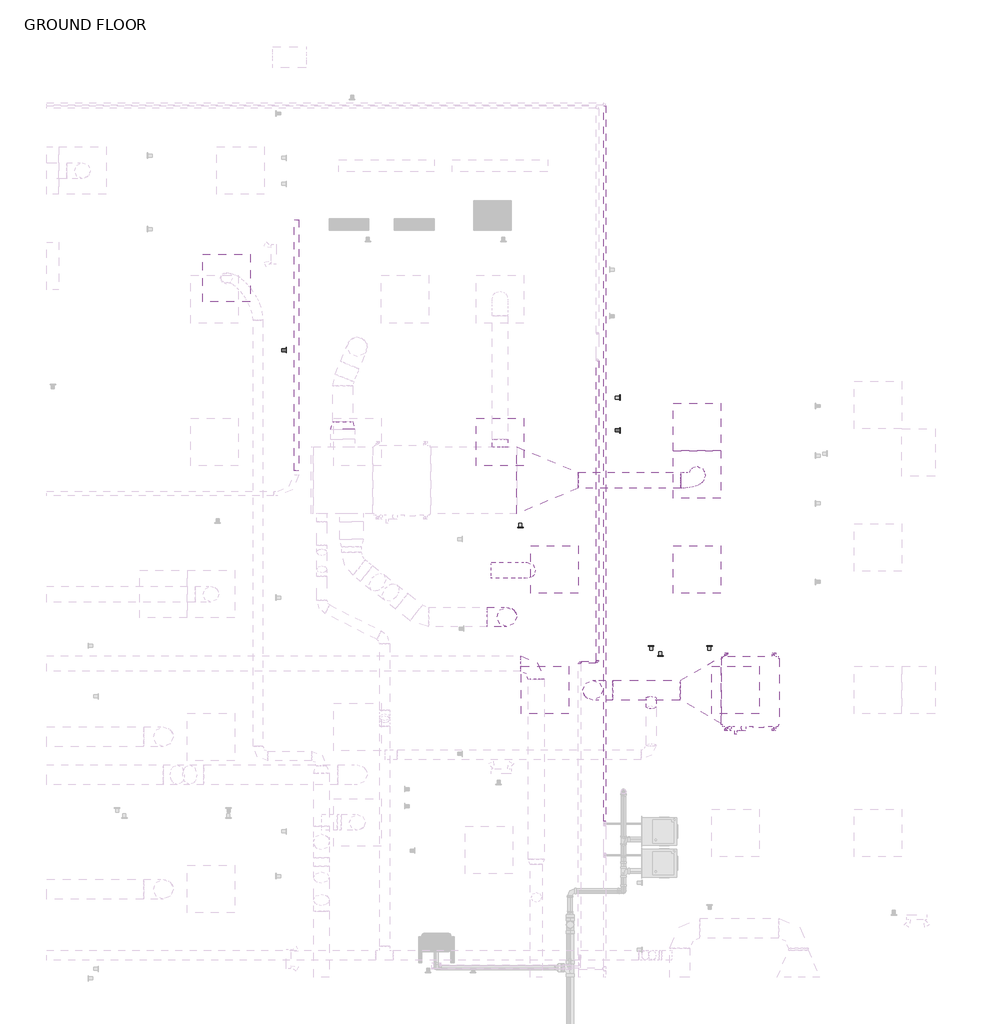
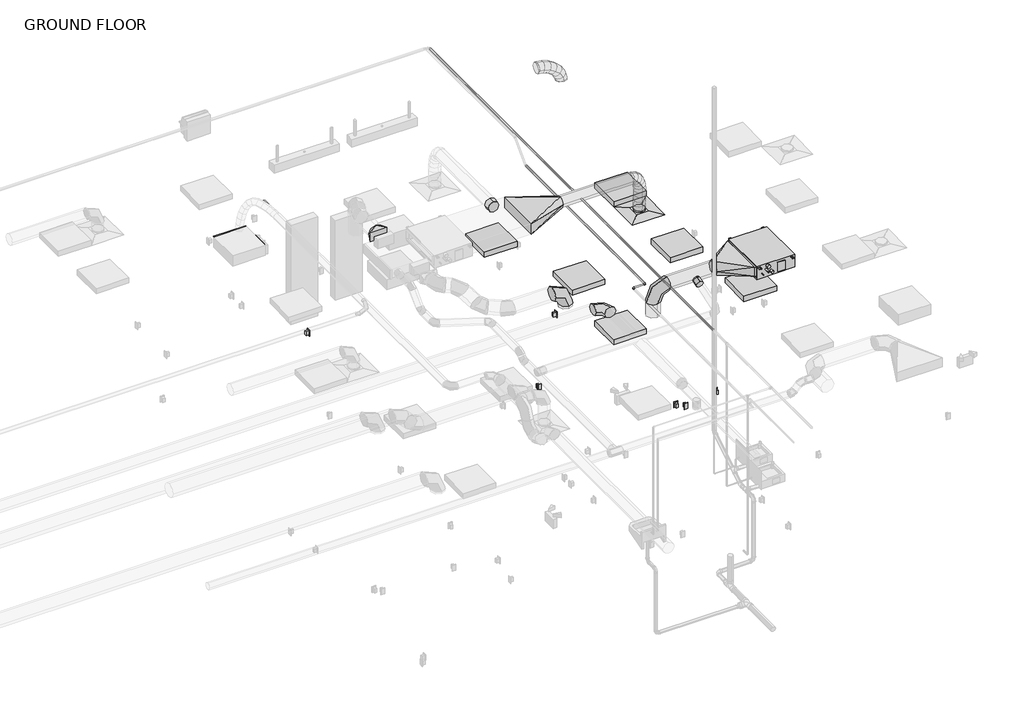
# One storey, part 20 of 22: 8 duct fittings, 6 duct segments, 6 light fixtures, 5 proxies, 3 pipe segments, 2 air terminals, 2 pipe fittings, 2 switching devices, 2 other elements.
"""IFC4 building model written with IfcOpenShell, lengths in millimetres."""

from ifc_helpers import new_model, si_unit, point, frame, frame_2d, origin, place, context, project, spatial, circle_curve, ellipse_curve, trimmed, segment, composite_curve, outline, extrude, transform, mapped, element, save
from ifc_brep_helpers import plane_surface, cylinder_surface, advanced_brep
from components import air_terminal_52af7c74, air_terminal_e9020785, mechanical_equipment_7e022f85, duplex_receptacle_countertop_10251bba, rectangular_to_round_transition_angle_45_degree_0bd342e9, rectangular_to_round_transition_angle_45_degree_09297cf0, rectangular_to_round_transition_angle_60_degree_68074483, round_elbow_1_d_a253342a, round_elbow_1_d_6fec3262, round_takeoff_standard_c8132586, round_takeoff_standard_1127d77f, telephone_outlet_data_plain_18c24199, troffer_corner_insert_2x2_3lamp_e67c7f8f, elbow_generic_standard_c06ac706

model = new_model("IFC4")

# Units and contexts
model_context = context("Model", 3, world=origin())
ifc_project = project(units=[si_unit("LENGTHUNIT", "METRE", prefix="MILLI")], contexts=[model_context])

# Site, building, storey
site = spatial("IfcSite", under=ifc_project)
building = spatial("IfcBuilding", under=site)
storey = spatial("IfcBuildingStorey", under=building, Name="GROUND FLOOR", Elevation=30480.0)

# Air terminals
placement = place(None, origin())
air_terminal_shape = air_terminal_52af7c74(model_context)
element("IfcAirTerminal", 1, ObjectType="Supply Diffuser - Rectangular Face Round Neck - Hosted : 24\"x24\" Face 6\" Neck - Hosted", at=placement, inside=storey, context=model_context, shape_type="MappedRepresentation", body=[
    mapped(air_terminal_shape, transform((8532.1795393, 5435.0070005, 33223.2), x_axis=(0.0, -1.0, 0.0), y_axis=(-1.0, 0.0, 0.0), z_axis=(0.0, 0.0, -1.0))),
])
air_terminal_2_shape = air_terminal_e9020785(model_context)
element("IfcAirTerminal", 2, ObjectType="Supply Diffuser - Rectangular Face Round Neck - Hosted : 24\"x24\" Face 8\" Neck - Hosted", at=placement, inside=storey, context=model_context, shape_type="MappedRepresentation", body=[
    mapped(air_terminal_2_shape, transform((14567.8545393, 2918.8195005, 33223.2), x_axis=(0.0, -1.0, 0.0), y_axis=(-1.0, 0.0, 0.0), z_axis=(0.0, 0.0, -1.0))),
])

# Proxies
mechanical_equipment_shape = mechanical_equipment_7e022f85(model_context)
element("IfcBuildingElementProxy", 3, Name="PEFY-P-NMAU-E_Medium_Static_Ducted : PEFY-P18NMAU-E", ObjectType="PEFY-P-NMAU-E_Medium_Static_Ducted : PEFY-P18NMAU-E", at=placement, inside=storey, context=model_context, shape_type="MappedRepresentation", body=[
    mapped(mechanical_equipment_shape, transform((15192.6616523, 124.3322576, 33686.75), x_axis=(0.0, -1.0, 0.0), y_axis=(1.0, 0.0, 0.0), z_axis=(0.0, 0.0, 1.0))),
])
duplex_receptacle_countertop_shape = duplex_receptacle_countertop_10251bba(model_context)
element("IfcBuildingElementProxy", 4, Name="Duplex Receptacle : Standard", ObjectType="Duplex Receptacle : Standard", at=placement, inside=storey, context=model_context, shape_type="MappedRepresentation", body=[
    mapped(duplex_receptacle_countertop_shape, transform((12301.5341357, 2239.3695005, 30937.2), x_axis=(1.0, 0.0, 0.0), y_axis=(0.0, 0.0, 1.0), z_axis=(0.0, -1.0, 0.0))),
])
element("IfcBuildingElementProxy", 5, Name="Duplex Receptacle : Standard", ObjectType="Duplex Receptacle : Standard", at=placement, inside=storey, context=model_context, shape_type="MappedRepresentation", body=[
    mapped(duplex_receptacle_countertop_shape, transform((14723.7149264, 715.3695005, 30937.2), x_axis=(-1.0, 0.0, 0.0), y_axis=(0.0, 0.0, 1.0), z_axis=(0.0, 1.0, 0.0))),
])
element("IfcBuildingElementProxy", 6, Name="Duplex Receptacle : Standard", ObjectType="Duplex Receptacle : Standard", at=placement, inside=storey, context=model_context, shape_type="MappedRepresentation", body=[
    mapped(duplex_receptacle_countertop_shape, transform((13574.0795393, 3902.2763697, 30937.2), x_axis=(0.0, 1.0, 0.0), y_axis=(0.0, 0.0, 1.0), z_axis=(1.0, 0.0, 0.0))),
])
element("IfcBuildingElementProxy", 7, Name="Duplex Receptacle : Standard", ObjectType="Duplex Receptacle : Standard", at=placement, inside=storey, context=model_context, shape_type="MappedRepresentation", body=[
    mapped(duplex_receptacle_countertop_shape, transform((14097.4622755, 591.5445005, 30937.2), x_axis=(1.0, 0.0, 0.0), y_axis=(0.0, 0.0, 1.0), z_axis=(0.0, -1.0, 0.0))),
])

# Cable carrier segment
element("IfcCableCarrierSegment", 8, ObjectType="Rigid Nonmetallic Conduit (RNC Sch 40)", at=placement, inside=storey, context=model_context, shape_type="SweptSolid", body=[
    extrude(outline(composite_curve([segment(trimmed(circle_curve(frame_2d((33223.2, 9431.6029466)), 30.1625), [point((33223.2, 9401.4404466))], [point((33193.0375, 9431.6029466))], False, "CARTESIAN"), True, "CONTINUOUS"), segment(trimmed(circle_curve(frame_2d((33223.2, 9431.6029466)), 30.1625), [point((33193.0375, 9431.6029466))], [point((33223.2, 9461.7654466))], False, "CARTESIAN"), True, "CONTINUOUS"), segment(trimmed(circle_curve(frame_2d((33223.2, 9431.6029466)), 30.1625), [point((33223.2, 9461.7654466))], [point((33253.3625, 9431.6029466))], False, "CARTESIAN"), True, "CONTINUOUS"), segment(trimmed(circle_curve(frame_2d((33223.2, 9431.6029466)), 30.1625), [point((33253.3625, 9431.6029466))], [point((33223.2, 9401.4404466))], False, "CARTESIAN"), True, "CONTINUOUS")], self_intersect=False)), frame((0.0, 2966.8111662, 0.0), z_axis=(0.0, 1.0, 0.0), x_axis=(0.0, 0.0, 1.0)), (0.0, 0.0, 1.0), 3213.1),
])

# Duct fittings
rectangular_to_round_transition_angle_45_degree_shape = rectangular_to_round_transition_angle_45_degree_0bd342e9(model_context)
element("IfcDuctFitting", 9, ObjectType="Rectangular to Round Transition - Angle : 45 Degree", at=placement, inside=storey, context=model_context, shape_type="MappedRepresentation", body=[
    mapped(rectangular_to_round_transition_angle_45_degree_shape, transform((10025.6343566, 3498.327897, 33992.34375), x_axis=(0.0, 1.0, 0.0), y_axis=(-1.0, 0.0, 0.0), z_axis=(0.0, 0.0, 1.0))),
])
rectangular_to_round_transition_angle_45_degree_2_shape = rectangular_to_round_transition_angle_45_degree_09297cf0(model_context)
element("IfcDuctFitting", 10, ObjectType="Rectangular to Round Transition - Angle : 45 Degree", at=placement, inside=storey, context=model_context, shape_type="MappedRepresentation", body=[
    mapped(rectangular_to_round_transition_angle_45_degree_2_shape, transform((12257.9936831, 2841.896647, 33978.85), x_axis=(1.0, 0.0, 0.0), y_axis=(0.0, 1.0, 0.0), z_axis=(0.0, 0.0, 1.0))),
])
rectangular_to_round_transition_angle_60_degree_shape = rectangular_to_round_transition_angle_60_degree_68074483(model_context)
element("IfcDuctFitting", 11, ObjectType="Rectangular to Round Transition - Angle : 60 Degree", at=placement, inside=storey, context=model_context, shape_type="MappedRepresentation", body=[
    mapped(rectangular_to_round_transition_angle_60_degree_shape, transform((14875.1616523, 151.8070005, 33846.29375), x_axis=(-1.0, 0.0, 0.0), y_axis=(0.0, -1.0, 0.0), z_axis=(0.0, 0.0, 1.0))),
])
round_elbow_1_d_shape = round_elbow_1_d_a253342a(model_context)
element("IfcDuctFitting", 12, ObjectType="Round Elbow : 1 D", at=placement, inside=storey, context=model_context, shape_type="MappedRepresentation", body=[
    mapped(round_elbow_1_d_shape, transform((12507.2795393, 493.3414929, 33528.0), x_axis=(0.0, 1.0, 0.0), y_axis=(-1.0, 0.0, 0.0), z_axis=(0.0, 0.0, 1.0))),
])
round_elbow_1_d_2_shape = round_elbow_1_d_6fec3262(model_context)
element("IfcDuctFitting", 13, ObjectType="Round Elbow : 1 D", at=placement, inside=storey, context=model_context, shape_type="MappedRepresentation", body=[
    mapped(round_elbow_1_d_2_shape, transform((13229.5920393, 151.8070005, 33846.29375), x_axis=(0.0, 0.0, 1.0), y_axis=(1.0, 0.0, 0.0), z_axis=(0.0, 1.0, 0.0))),
])
element("IfcDuctFitting", 14, ObjectType="Round Elbow : 1 D", at=placement, inside=storey, context=model_context, shape_type="MappedRepresentation", body=[
    mapped(round_elbow_1_d_2_shape, transform((12129.4545393, 1090.0195005, 33629.6), x_axis=(0.0, 0.0, 1.0), y_axis=(-1.0, 0.0, 0.0), z_axis=(0.0, -1.0, 0.0))),
])
round_takeoff_standard_shape = round_takeoff_standard_c8132586(model_context)
element("IfcDuctFitting", 15, ObjectType="Round Takeoff : Standard", at=placement, inside=storey, context=model_context, shape_type="MappedRepresentation", body=[
    mapped(round_takeoff_standard_shape, transform((13976.8577502, 28.8487351, 33814.5090845), x_axis=(0.0, -0.9574860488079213, -0.28847957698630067), y_axis=(-1.0, 0.0, 0.0), z_axis=(0.0, 0.28847957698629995, -0.9574860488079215))),
])
round_takeoff_standard_2_shape = round_takeoff_standard_1127d77f(model_context)
element("IfcDuctFitting", 16, ObjectType="Round Takeoff : Standard", at=placement, inside=storey, context=model_context, shape_type="MappedRepresentation", body=[
    mapped(round_takeoff_standard_2_shape, transform((12040.5545393, 3269.727897, 33978.85), x_axis=(0.0, 1.0, 0.0), y_axis=(1.0, 0.0, 0.0), z_axis=(0.0, 0.0, -1.0))),
])

# Duct segments
element("IfcDuctSegment", 17, ObjectType="Flex - Round", at=placement, inside=storey, context=model_context, shape_type="AdvancedBrep", body=[
    advanced_brep(
    [(14669.4545393, 2918.8195005, 33277.175), (14567.8545393, 2817.2195005, 33277.175), (14466.2545393, 2918.8195005, 33277.175), (14567.8545393, 3020.4195005, 33277.175), (14669.4545393, 2918.8195005, 33279.8547075), (14567.8545393, 2817.2195005, 33278.7618832), (14466.2545393, 2918.8195005, 33280.7980181), (14567.8545393, 3020.4195005, 33281.8908423), (14670.2466059, 2916.1922176, 33365.1427836), (14568.616162, 2814.6931997, 33360.7718304), (14467.0530424, 2916.1708676, 33366.7791677), (14568.6834863, 3017.6698854, 33371.1501209), (14670.9315956, 2909.0188694, 33465.4647279), (14569.2677947, 2807.8691727, 33456.2083879), (14467.7182424, 2909.2047612, 33464.2027585), (14569.3820433, 3010.3544579, 33473.4590985), (14668.8447102, 2898.3986023, 33572.8340621), (14567.3020822, 2797.8655607, 33557.3434305), (14465.7826584, 2899.3544747, 33563.787703), (14567.3252863, 2999.8875163, 33579.2783346), (14661.1005042, 2885.461278, 33682.2201979), (14560.1562908, 2785.9279366, 33658.2770193), (14458.9994567, 2888.0225859, 33659.5997492), (14559.94367, 2987.5559274, 33683.5429279), (14644.2995966, 2871.2387095, 33789.4249914), (14545.2626132, 2773.3199064, 33753.3119824), (14445.6357391, 2876.7097216, 33744.8722008), (14544.6727225, 2974.6285247, 33780.9852098), (14613.5644873, 2856.5939705, 33891.2786024), (14520.0395911, 2761.30158, 33836.8989925), (14425.4367268, 2867.0852475, 33811.8100579), (14518.961623, 2962.377638, 33866.1896679), (14560.3234804, 2842.4095473, 33984.2272659), (14481.828247, 2751.1213466, 33903.6087256), (14401.8418364, 2860.7991171, 33853.0022452), (14480.3370698, 2952.0873178, 33933.6207855), (14477.0345462, 2831.492141, 34052.57981), (14427.8368128, 2744.0442188, 33947.9177556), (14377.2608184, 2857.5770689, 33873.1750944), (14426.4585518, 2945.024991, 33977.8371488), (14393.1398295, 2827.0688797, 34079.362175), (14377.3901647, 2741.384472, 33964.0222327), (14361.0887655, 2856.7244143, 33878.337825), (14376.8384304, 2942.4088219, 33993.6777673), (14355.1295393, 2827.0688797, 34079.362175), (14355.1295393, 2942.4088219, 33993.6777673), (14355.1295393, 2856.7244143, 33878.337825), (14355.1295393, 2741.384472, 33964.0222327)],
    [
        (0, 1, circle_curve(frame((14567.8545393, 2918.8195005, 33277.175), z_axis=(0.0, 0.0, -1.0), x_axis=(1.0, 0.0, 0.0)), 101.6)),
        (1, 2, circle_curve(frame((14567.8545393, 2918.8195005, 33277.175), z_axis=(0.0, 0.0, -1.0), x_axis=(1.0, 0.0, 0.0)), 101.6)),
        (2, 3, circle_curve(frame((14567.8545393, 2918.8195005, 33277.175), z_axis=(0.0, 0.0, -1.0), x_axis=(1.0, 0.0, 0.0)), 101.6)),
        (3, 0, circle_curve(frame((14567.8545393, 2918.8195005, 33277.175), z_axis=(0.0, 0.0, -1.0), x_axis=(1.0, 0.0, 0.0)), 101.6)),
        (0, 4),
        (4, 5, ellipse_curve(frame((14567.8545393, 2918.8195005, 33280.3263628), z_axis=(-0.004641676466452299, 0.015396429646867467, -0.9998706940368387), x_axis=(0.2886080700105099, -0.957312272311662, -0.016080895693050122)), 101.6131392, 101.6)),
        (5, 1),
        (5, 6, ellipse_curve(frame((14567.8545393, 2918.8195005, 33280.3263628), z_axis=(-0.004641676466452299, 0.015396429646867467, -0.9998706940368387), x_axis=(0.2886080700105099, -0.957312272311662, -0.016080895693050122)), 101.6131392, 101.6)),
        (6, 2),
        (6, 7, ellipse_curve(frame((14567.8545393, 2918.8195005, 33280.3263628), z_axis=(-0.004641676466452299, 0.015396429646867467, -0.9998706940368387), x_axis=(0.2886080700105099, -0.957312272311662, -0.016080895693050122)), 101.6131392, 101.6)),
        (7, 3),
        (7, 4, ellipse_curve(frame((14567.8545393, 2918.8195005, 33280.3263628), z_axis=(-0.004641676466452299, 0.015396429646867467, -0.9998706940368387), x_axis=(0.2886080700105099, -0.957312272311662, -0.016080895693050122)), 101.6131392, 101.6)),
        (4, 8),
        (8, 9, ellipse_curve(frame((14568.6498241, 2916.1815426, 33365.9609757), z_axis=(-0.008047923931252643, 0.051064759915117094, -0.9986629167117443), x_axis=(-0.06079481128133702, -0.996872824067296, -0.050483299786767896)), 101.6210003, 101.6)),
        (9, 5),
        (9, 10, ellipse_curve(frame((14568.6498241, 2916.1815426, 33365.9609757), z_axis=(-0.008047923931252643, 0.051064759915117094, -0.9986629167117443), x_axis=(-0.06079481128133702, -0.996872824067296, -0.050483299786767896)), 101.6210003, 101.6)),
        (10, 6),
        (10, 11, ellipse_curve(frame((14568.6498241, 2916.1815426, 33365.9609757), z_axis=(-0.008047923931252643, 0.051064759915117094, -0.9986629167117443), x_axis=(-0.06079481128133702, -0.996872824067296, -0.050483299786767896)), 101.6210003, 101.6)),
        (11, 7),
        (11, 8, ellipse_curve(frame((14568.6498241, 2916.1815426, 33365.9609757), z_axis=(-0.008047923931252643, 0.051064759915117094, -0.9986629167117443), x_axis=(-0.06079481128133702, -0.996872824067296, -0.050483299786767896)), 101.6210003, 101.6)),
        (8, 12),
        (12, 13, ellipse_curve(frame((14569.324919, 2909.1118153, 33464.8337432), z_axis=(0.006265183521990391, 0.08488220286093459, -0.9963712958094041), x_axis=(-0.6929382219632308, -0.718013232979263, -0.06552570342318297)), 101.6180899, 101.6)),
        (13, 9),
        (13, 14, ellipse_curve(frame((14569.324919, 2909.1118153, 33464.8337432), z_axis=(0.006265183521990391, 0.08488220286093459, -0.9963712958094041), x_axis=(-0.6929382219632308, -0.718013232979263, -0.06552570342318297)), 101.6180899, 101.6)),
        (14, 10),
        (14, 15, ellipse_curve(frame((14569.324919, 2909.1118153, 33464.8337432), z_axis=(0.006265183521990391, 0.08488220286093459, -0.9963712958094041), x_axis=(-0.6929382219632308, -0.718013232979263, -0.06552570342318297)), 101.6180899, 101.6)),
        (15, 11),
        (15, 12, ellipse_curve(frame((14569.324919, 2909.1118153, 33464.8337432), z_axis=(0.006265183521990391, 0.08488220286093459, -0.9963712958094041), x_axis=(-0.6929382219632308, -0.718013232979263, -0.06552570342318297)), 101.6180899, 101.6)),
        (12, 16),
        (16, 17, ellipse_curve(frame((14567.3136843, 2898.8765385, 33568.3108826), z_axis=(0.04475266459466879, 0.10782920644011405, -0.9931616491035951), x_axis=(-0.935152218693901, -0.34518349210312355, -0.07961585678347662)), 101.637491, 101.6)),
        (17, 13),
        (17, 18, ellipse_curve(frame((14567.3136843, 2898.8765385, 33568.3108826), z_axis=(0.04475266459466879, 0.10782920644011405, -0.9931616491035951), x_axis=(-0.935152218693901, -0.34518349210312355, -0.07961585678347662)), 101.637491, 101.6)),
        (18, 14),
        (18, 19, ellipse_curve(frame((14567.3136843, 2898.8765385, 33568.3108826), z_axis=(0.04475266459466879, 0.10782920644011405, -0.9931616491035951), x_axis=(-0.935152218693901, -0.34518349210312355, -0.07961585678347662)), 101.637491, 101.6)),
        (19, 15),
        (19, 16, ellipse_curve(frame((14567.3136843, 2898.8765385, 33568.3108826), z_axis=(0.04475266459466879, 0.10782920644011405, -0.9931616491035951), x_axis=(-0.935152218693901, -0.34518349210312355, -0.07961585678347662)), 101.637491, 101.6)),
        (16, 20),
        (20, 21, ellipse_curve(frame((14560.0499804, 2886.741932, 33670.9099736), z_axis=(0.11192577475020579, 0.12367206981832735, -0.9859907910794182), x_axis=(-0.9800340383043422, -0.15035030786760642, -0.13010791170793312)), 101.6920553, 101.6)),
        (21, 17),
        (21, 22, ellipse_curve(frame((14560.0499804, 2886.741932, 33670.9099736), z_axis=(0.11192577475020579, 0.12367206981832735, -0.9859907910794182), x_axis=(-0.9800340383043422, -0.15035030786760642, -0.13010791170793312)), 101.6920553, 101.6)),
        (22, 18),
        (22, 23, ellipse_curve(frame((14560.0499804, 2886.741932, 33670.9099736), z_axis=(0.11192577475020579, 0.12367206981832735, -0.9859907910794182), x_axis=(-0.9800340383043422, -0.15035030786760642, -0.13010791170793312)), 101.6920553, 101.6)),
        (23, 19),
        (23, 20, ellipse_curve(frame((14560.0499804, 2886.741932, 33670.9099736), z_axis=(0.11192577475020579, 0.12367206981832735, -0.9859907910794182), x_axis=(-0.9800340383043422, -0.15035030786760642, -0.13010791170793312)), 101.6920553, 101.6)),
        (20, 24),
        (24, 25, ellipse_curve(frame((14544.9676679, 2873.9742155, 33767.1485961), z_axis=(0.22036722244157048, 0.13347181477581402, -0.9662419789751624), x_axis=(-0.9724624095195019, -0.046980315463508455, -0.22827551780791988)), 101.8372313, 101.6)),
        (25, 21),
        (25, 26, ellipse_curve(frame((14544.9676679, 2873.9742155, 33767.1485961), z_axis=(0.22036722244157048, 0.13347181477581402, -0.9662419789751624), x_axis=(-0.9724624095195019, -0.046980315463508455, -0.22827551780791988)), 101.8372313, 101.6)),
        (26, 22),
        (26, 27, ellipse_curve(frame((14544.9676679, 2873.9742155, 33767.1485961), z_axis=(0.22036722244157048, 0.13347181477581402, -0.9662419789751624), x_axis=(-0.9724624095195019, -0.046980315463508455, -0.22827551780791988)), 101.8372313, 101.6)),
        (27, 23),
        (27, 24, ellipse_curve(frame((14544.9676679, 2873.9742155, 33767.1485961), z_axis=(0.22036722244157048, 0.13347181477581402, -0.9662419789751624), x_axis=(-0.9724624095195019, -0.046980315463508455, -0.22827551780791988)), 101.8372313, 101.6)),
        (24, 28),
        (28, 29, ellipse_curve(frame((14519.500607, 2861.839609, 33851.5443302), z_axis=(0.39194385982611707, 0.13467205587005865, -0.9100788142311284), x_axis=(-0.9194238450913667, 0.022666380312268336, -0.3926143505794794)), 102.2470263, 101.6)),
        (29, 25),
        (29, 30, ellipse_curve(frame((14519.500607, 2861.839609, 33851.5443302), z_axis=(0.39194385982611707, 0.13467205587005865, -0.9100788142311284), x_axis=(-0.9194238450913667, 0.022666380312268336, -0.3926143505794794)), 102.2470263, 101.6)),
        (30, 26),
        (30, 31, ellipse_curve(frame((14519.500607, 2861.839609, 33851.5443302), z_axis=(0.39194385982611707, 0.13467205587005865, -0.9100788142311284), x_axis=(-0.9194238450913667, 0.022666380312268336, -0.3926143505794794)), 102.2470263, 101.6)),
        (31, 27),
        (31, 28, ellipse_curve(frame((14519.500607, 2861.839609, 33851.5443302), z_axis=(0.39194385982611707, 0.13467205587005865, -0.9100788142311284), x_axis=(-0.9194238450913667, 0.022666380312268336, -0.3926143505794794)), 102.2470263, 101.6)),
        (28, 32),
        (32, 33, ellipse_curve(frame((14481.0826584, 2851.6043322, 33918.6147556), z_axis=(0.6413951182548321, 0.11797107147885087, -0.7580864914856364), x_axis=(-0.7671332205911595, 0.08456983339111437, -0.635888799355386)), 103.289209, 101.6)),
        (33, 29),
        (33, 34, ellipse_curve(frame((14481.0826584, 2851.6043322, 33918.6147556), z_axis=(0.6413951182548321, 0.11797107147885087, -0.7580864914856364), x_axis=(-0.7671332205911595, 0.08456983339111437, -0.635888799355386)), 103.289209, 101.6)),
        (34, 30),
        (34, 35, ellipse_curve(frame((14481.0826584, 2851.6043322, 33918.6147556), z_axis=(0.6413951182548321, 0.11797107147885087, -0.7580864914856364), x_axis=(-0.7671332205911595, 0.08456983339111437, -0.635888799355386)), 103.289209, 101.6)),
        (35, 31),
        (35, 32, ellipse_curve(frame((14481.0826584, 2851.6043322, 33918.6147556), z_axis=(0.6413951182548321, 0.11797107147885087, -0.7580864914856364), x_axis=(-0.7671332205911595, 0.08456983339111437, -0.635888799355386)), 103.289209, 101.6)),
        (32, 36),
        (36, 37, ellipse_curve(frame((14427.1476823, 2844.5346049, 33962.8774522), z_axis=(0.8760609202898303, 0.07687337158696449, -0.47603334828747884), x_axis=(-0.48219228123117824, 0.13391841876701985, -0.8657692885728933)), 103.4666283, 101.6)),
        (37, 33),
        (37, 38, ellipse_curve(frame((14427.1476823, 2844.5346049, 33962.8774522), z_axis=(0.8760609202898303, 0.07687337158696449, -0.47603334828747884), x_axis=(-0.48219228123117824, 0.13391841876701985, -0.8657692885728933)), 103.4666283, 101.6)),
        (38, 34),
        (38, 39, ellipse_curve(frame((14427.1476823, 2844.5346049, 33962.8774522), z_axis=(0.8760609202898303, 0.07687337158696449, -0.47603334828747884), x_axis=(-0.48219228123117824, 0.13391841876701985, -0.8657692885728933)), 103.4666283, 101.6)),
        (39, 35),
        (39, 36, ellipse_curve(frame((14427.1476823, 2844.5346049, 33962.8774522), z_axis=(0.8760609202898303, 0.07687337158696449, -0.47603334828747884), x_axis=(-0.48219228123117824, 0.13391841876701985, -0.8657692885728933)), 103.4666283, 101.6)),
        (36, 40),
        (40, 41, ellipse_curve(frame((14377.1142975, 2841.896647, 33978.85), z_axis=(0.9877842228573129, 0.025391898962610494, -0.15374518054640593), x_axis=(-0.1558278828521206, 0.160957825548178, -0.9745820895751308)), 102.8564717, 101.6)),
        (41, 37),
        (41, 42, ellipse_curve(frame((14377.1142975, 2841.896647, 33978.85), z_axis=(0.9877842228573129, 0.025391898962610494, -0.15374518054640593), x_axis=(-0.1558278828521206, 0.160957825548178, -0.9745820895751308)), 102.8564717, 101.6)),
        (42, 38),
        (42, 43, ellipse_curve(frame((14377.1142975, 2841.896647, 33978.85), z_axis=(0.9877842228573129, 0.025391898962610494, -0.15374518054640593), x_axis=(-0.1558278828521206, 0.160957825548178, -0.9745820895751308)), 102.8564717, 101.6)),
        (43, 39),
        (43, 40, ellipse_curve(frame((14377.1142975, 2841.896647, 33978.85), z_axis=(0.9877842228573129, 0.025391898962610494, -0.15374518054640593), x_axis=(-0.1558278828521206, 0.160957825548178, -0.9745820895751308)), 102.8564717, 101.6)),
        (44, 45, circle_curve(frame((14355.1295393, 2841.896647, 33978.85), z_axis=(-1.0, 0.0, 0.0), x_axis=(0.0, -0.1459425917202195, 0.9892930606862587)), 101.6)),
        (45, 46, circle_curve(frame((14355.1295393, 2841.896647, 33978.85), z_axis=(-1.0, 0.0, 0.0), x_axis=(0.0, -0.1459425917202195, 0.9892930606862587)), 101.6)),
        (46, 47, circle_curve(frame((14355.1295393, 2841.896647, 33978.85), z_axis=(-1.0, 0.0, 0.0), x_axis=(0.0, -0.1459425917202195, 0.9892930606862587)), 101.6)),
        (47, 44, circle_curve(frame((14355.1295393, 2841.896647, 33978.85), z_axis=(-1.0, 0.0, 0.0), x_axis=(0.0, -0.1459425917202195, 0.9892930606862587)), 101.6)),
        (40, 44),
        (47, 41),
        (46, 42),
        (45, 43),
    ],
    [
        plane_surface(frame((14567.8545393, 2817.2195005, 33277.175), z_axis=(0.0, 0.0, -1.0), x_axis=(1.0, 0.0, 0.0))),
        cylinder_surface(frame((14567.8545393, 2918.8195005, 33277.175), z_axis=(0.0, 0.0, -1.0), x_axis=(1.0, 0.0, 0.0)), 101.6),
        cylinder_surface(frame((14567.8545393, 2918.8195005, 33280.3263628), z_axis=(-0.009282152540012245, 0.030788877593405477, -0.9994828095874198), x_axis=(0.9999569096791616, 0.00014293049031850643, -0.009282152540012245)), 101.6),
        cylinder_surface(frame((14568.6498241, 2916.1815426, 33365.9609757), z_axis=(-0.006810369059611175, 0.07131953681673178, -0.9974302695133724), x_axis=(0.9999766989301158, 1.7366014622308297e-05, -0.006826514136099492)), 101.6),
        cylinder_surface(frame((14569.324919, 2909.1118153, 33464.8337432), z_axis=(0.019338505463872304, 0.0984146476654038, -0.9949575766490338), x_axis=(0.9998129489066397, -0.0022011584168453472, 0.01921515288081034)), 101.6),
        cylinder_surface(frame((14567.3136843, 2898.8765385, 33568.3108826), z_axis=(0.07013380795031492, 0.1171642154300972, -0.9906330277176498), x_axis=(0.9975374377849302, -0.007683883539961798, 0.06971383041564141)), 101.6),
        cylinder_surface(frame((14560.0499804, 2886.741932, 33670.9099736), z_axis=(0.15351510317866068, 0.129956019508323, -0.9795634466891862), x_axis=(0.9881440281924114, -0.018063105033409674, 0.1524634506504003)), 101.6),
        cylinder_surface(frame((14544.9676679, 2873.9742155, 33767.1485961), z_axis=(0.2861926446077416, 0.1363657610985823, -0.9484187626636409), x_axis=(0.9581621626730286, -0.036222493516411, 0.2839246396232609)), 101.6),
        cylinder_surface(frame((14519.500607, 2861.839609, 33851.5443302), z_axis=(0.4927345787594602, 0.1312739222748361, -0.8602207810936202), x_axis=(0.8701520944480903, -0.06646278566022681, 0.48828068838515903)), 101.6),
        cylinder_surface(frame((14481.0826584, 2851.6043322, 33918.6147556), z_axis=(0.7690766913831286, 0.10080958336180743, -0.631156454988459), x_axis=(0.6391066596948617, -0.10895870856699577, 0.7613610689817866)), 101.6),
        cylinder_surface(frame((14427.1476823, 2844.5346049, 33962.8774522), z_axis=(0.9514353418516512, 0.050163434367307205, -0.3037341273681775), x_axis=(0.3078030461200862, -0.1380302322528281, 0.9413845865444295)), 101.6),
        plane_surface(frame((14355.1295393, 2841.896647, 33877.25), z_axis=(-1.0, 0.0, 0.0), x_axis=(0.0, -1.0, 0.0))),
        cylinder_surface(frame((14377.1142975, 2841.896647, 33978.85), z_axis=(1.0000000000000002, 0.0, 0.0), x_axis=(0.0, -0.1459425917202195, 0.9892930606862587)), 101.6),
    ],
    [
        (0, [[1, 2, 3, 4]]),
        (1, [[-1, 5, 6, 7]]),
        (1, [[-2, -7, 8, 9]]),
        (1, [[-3, -9, 10, 11]]),
        (1, [[-4, -11, 12, -5]]),
        (2, [[-6, 13, 14, 15]]),
        (2, [[-8, -15, 16, 17]]),
        (2, [[-10, -17, 18, 19]]),
        (2, [[-12, -19, 20, -13]]),
        (3, [[-14, 21, 22, 23]]),
        (3, [[-16, -23, 24, 25]]),
        (3, [[-18, -25, 26, 27]]),
        (3, [[-20, -27, 28, -21]]),
        (4, [[-22, 29, 30, 31]]),
        (4, [[-24, -31, 32, 33]]),
        (4, [[-26, -33, 34, 35]]),
        (4, [[-28, -35, 36, -29]]),
        (5, [[-30, 37, 38, 39]]),
        (5, [[-32, -39, 40, 41]]),
        (5, [[-34, -41, 42, 43]]),
        (5, [[-36, -43, 44, -37]]),
        (6, [[-38, 45, 46, 47]]),
        (6, [[-40, -47, 48, 49]]),
        (6, [[-42, -49, 50, 51]]),
        (6, [[-44, -51, 52, -45]]),
        (7, [[-46, 53, 54, 55]]),
        (7, [[-48, -55, 56, 57]]),
        (7, [[-50, -57, 58, 59]]),
        (7, [[-52, -59, 60, -53]]),
        (8, [[-54, 61, 62, 63]]),
        (8, [[-56, -63, 64, 65]]),
        (8, [[-58, -65, 66, 67]]),
        (8, [[-60, -67, 68, -61]]),
        (9, [[-62, 69, 70, 71]]),
        (9, [[-64, -71, 72, 73]]),
        (9, [[-66, -73, 74, 75]]),
        (9, [[-68, -75, 76, -69]]),
        (10, [[-70, 77, 78, 79]]),
        (10, [[-72, -79, 80, 81]]),
        (10, [[-74, -81, 82, 83]]),
        (10, [[-76, -83, 84, -77]]),
        (11, [[85, 86, 87, 88]]),
        (12, [[-78, 89, -88, 90]]),
        (12, [[-80, -90, -87, 91]]),
        (12, [[-82, -91, -86, 92]]),
        (12, [[-84, -92, -85, -89]]),
    ],
),
])
element("IfcDuctSegment", 18, ObjectType="Flex - Round", at=placement, inside=storey, context=model_context, shape_type="AdvancedBrep", body=[
    advanced_brep(
    [(11929.4295393, 1788.5195005, 37712.65), (11929.4295393, 1686.9195005, 37611.05), (11929.4295393, 1585.3195005, 37712.65), (11929.4295393, 1686.9195005, 37814.25), (11942.8770973, 1788.5195005, 37712.65), (11935.1214914, 1686.9195005, 37611.05), (11942.8770973, 1585.3195005, 37712.65), (11950.6327032, 1686.9195005, 37814.25), (12392.9795393, 1788.5195005, 37341.175), (12494.5795393, 1686.9195005, 37341.175), (12392.9795393, 1585.3195005, 37341.175), (12291.3795393, 1686.9195005, 37341.175), (12032.5201106, 1788.5195005, 37698.8840402), (12007.0675218, 1686.9195005, 37600.0016636), (12032.5201106, 1585.3195005, 37698.8840402), (12057.9726995, 1686.9195005, 37797.7664167), (12137.6136928, 1788.5195005, 37660.3439286), (12093.4253019, 1686.9195005, 37568.3323798), (12137.6136928, 1585.3195005, 37660.3439286), (12181.8020838, 1686.9195005, 37752.3554774), (12235.4583563, 1788.5195005, 37601.166317), (12173.9191675, 1686.9195005, 37519.6487364), (12235.4583563, 1585.3195005, 37601.166317), (12296.9975452, 1686.9195005, 37682.6838977), (12316.8021716, 1788.5195005, 37525.4878572), (12237.9377792, 1686.9195005, 37460.0888311), (12316.8021716, 1585.3195005, 37525.4878572), (12395.666564, 1686.9195005, 37590.8868834), (12372.3932091, 1788.5195005, 37437.445201), (12278.4147005, 1686.9195005, 37395.9832517), (12372.3932091, 1585.3195005, 37437.445201), (12466.3717177, 1686.9195005, 37478.9071503), (12392.9795393, 1788.5195005, 37362.4207258), (12291.3795393, 1686.9195005, 37348.7344116), (12392.9795393, 1585.3195005, 37362.4207258), (12494.5795393, 1686.9195005, 37376.10704)],
    [
        (0, 1, circle_curve(frame((11929.4295393, 1686.9195005, 37712.65), z_axis=(-1.0, 0.0, 0.0), x_axis=(0.0, 1.0, 0.0)), 101.6)),
        (1, 2, circle_curve(frame((11929.4295393, 1686.9195005, 37712.65), z_axis=(-1.0, 0.0, 0.0), x_axis=(0.0, 1.0, 0.0)), 101.6)),
        (2, 3, circle_curve(frame((11929.4295393, 1686.9195005, 37712.65), z_axis=(-1.0, 0.0, 0.0), x_axis=(0.0, 1.0, 0.0)), 101.6)),
        (3, 0, circle_curve(frame((11929.4295393, 1686.9195005, 37712.65), z_axis=(-1.0, 0.0, 0.0), x_axis=(0.0, 1.0, 0.0)), 101.6)),
        (0, 4),
        (4, 5, ellipse_curve(frame((11942.8770973, 1686.9195005, 37712.65), z_axis=(-0.9970991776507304, 0.0, 0.07611327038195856), x_axis=(-0.07611327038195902, 0.0, -0.9970991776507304)), 101.895581, 101.6)),
        (5, 1),
        (5, 6, ellipse_curve(frame((11942.8770973, 1686.9195005, 37712.65), z_axis=(-0.9970991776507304, 0.0, 0.07611327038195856), x_axis=(-0.07611327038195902, 0.0, -0.9970991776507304)), 101.895581, 101.6)),
        (6, 2),
        (6, 7, ellipse_curve(frame((11942.8770973, 1686.9195005, 37712.65), z_axis=(-0.9970991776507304, 0.0, 0.07611327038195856), x_axis=(-0.07611327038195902, 0.0, -0.9970991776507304)), 101.895581, 101.6)),
        (7, 3),
        (7, 4, ellipse_curve(frame((11942.8770973, 1686.9195005, 37712.65), z_axis=(-0.9970991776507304, 0.0, 0.07611327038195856), x_axis=(-0.07611327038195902, 0.0, -0.9970991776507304)), 101.895581, 101.6)),
        (8, 9, circle_curve(frame((12392.9795393, 1686.9195005, 37341.175), z_axis=(0.0, 0.0, -1.0), x_axis=(0.0, 1.0, 0.0)), 101.6)),
        (9, 10, circle_curve(frame((12392.9795393, 1686.9195005, 37341.175), z_axis=(0.0, 0.0, -1.0), x_axis=(0.0, 1.0, 0.0)), 101.6)),
        (10, 11, circle_curve(frame((12392.9795393, 1686.9195005, 37341.175), z_axis=(0.0, 0.0, -1.0), x_axis=(0.0, 1.0, 0.0)), 101.6)),
        (11, 8, circle_curve(frame((12392.9795393, 1686.9195005, 37341.175), z_axis=(0.0, 0.0, -1.0), x_axis=(0.0, 1.0, 0.0)), 101.6)),
        (4, 12),
        (12, 13, ellipse_curve(frame((12032.5201106, 1686.9195005, 37698.8840402), z_axis=(-0.9684322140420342, 0.0, 0.24927704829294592), x_axis=(-0.2492770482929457, 0.0, -0.9684322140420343)), 102.1056251, 101.6)),
        (13, 5),
        (13, 14, ellipse_curve(frame((12032.5201106, 1686.9195005, 37698.8840402), z_axis=(-0.9684322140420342, 0.0, 0.24927704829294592), x_axis=(-0.2492770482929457, 0.0, -0.9684322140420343)), 102.1056251, 101.6)),
        (14, 6),
        (14, 15, ellipse_curve(frame((12032.5201106, 1686.9195005, 37698.8840402), z_axis=(-0.9684322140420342, 0.0, 0.24927704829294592), x_axis=(-0.2492770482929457, 0.0, -0.9684322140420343)), 102.1056251, 101.6)),
        (15, 7),
        (15, 12, ellipse_curve(frame((12032.5201106, 1686.9195005, 37698.8840402), z_axis=(-0.9684322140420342, 0.0, 0.24927704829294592), x_axis=(-0.2492770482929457, 0.0, -0.9684322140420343)), 102.1056251, 101.6)),
        (12, 16),
        (16, 17, ellipse_curve(frame((12137.6136928, 1686.9195005, 37660.3439286), z_axis=(-0.9014357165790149, 0.0, 0.4329129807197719), x_axis=(-0.43291298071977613, 0.0, -0.9014357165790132)), 102.0722244, 101.6)),
        (17, 13),
        (17, 18, ellipse_curve(frame((12137.6136928, 1686.9195005, 37660.3439286), z_axis=(-0.9014357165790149, 0.0, 0.4329129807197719), x_axis=(-0.43291298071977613, 0.0, -0.9014357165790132)), 102.0722244, 101.6)),
        (18, 14),
        (18, 19, ellipse_curve(frame((12137.6136928, 1686.9195005, 37660.3439286), z_axis=(-0.9014357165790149, 0.0, 0.4329129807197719), x_axis=(-0.43291298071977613, 0.0, -0.9014357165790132)), 102.0722244, 101.6)),
        (19, 15),
        (19, 16, ellipse_curve(frame((12137.6136928, 1686.9195005, 37660.3439286), z_axis=(-0.9014357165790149, 0.0, 0.4329129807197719), x_axis=(-0.43291298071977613, 0.0, -0.9014357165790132)), 102.0722244, 101.6)),
        (16, 20),
        (20, 21, ellipse_curve(frame((12235.4583563, 1686.9195005, 37601.166317), z_axis=(-0.7981115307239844, 0.0, 0.6025097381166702), x_axis=(-0.6025097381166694, 0.0, -0.798111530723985)), 102.1380816, 101.6)),
        (21, 17),
        (21, 22, ellipse_curve(frame((12235.4583563, 1686.9195005, 37601.166317), z_axis=(-0.7981115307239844, 0.0, 0.6025097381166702), x_axis=(-0.6025097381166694, 0.0, -0.798111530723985)), 102.1380816, 101.6)),
        (22, 18),
        (22, 23, ellipse_curve(frame((12235.4583563, 1686.9195005, 37601.166317), z_axis=(-0.7981115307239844, 0.0, 0.6025097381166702), x_axis=(-0.6025097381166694, 0.0, -0.798111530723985)), 102.1380816, 101.6)),
        (23, 19),
        (23, 20, ellipse_curve(frame((12235.4583563, 1686.9195005, 37601.166317), z_axis=(-0.7981115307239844, 0.0, 0.6025097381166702), x_axis=(-0.6025097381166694, 0.0, -0.798111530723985)), 102.1380816, 101.6)),
        (20, 24),
        (24, 25, ellipse_curve(frame((12316.8021716, 1686.9195005, 37525.4878572), z_axis=(-0.638331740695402, 0.0, 0.7697613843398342), x_axis=(-0.769761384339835, 0.0, -0.6383317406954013)), 102.4530381, 101.6)),
        (25, 21),
        (25, 26, ellipse_curve(frame((12316.8021716, 1686.9195005, 37525.4878572), z_axis=(-0.638331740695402, 0.0, 0.7697613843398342), x_axis=(-0.769761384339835, 0.0, -0.6383317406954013)), 102.4530381, 101.6)),
        (26, 22),
        (26, 27, ellipse_curve(frame((12316.8021716, 1686.9195005, 37525.4878572), z_axis=(-0.638331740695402, 0.0, 0.7697613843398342), x_axis=(-0.769761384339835, 0.0, -0.6383317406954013)), 102.4530381, 101.6)),
        (27, 23),
        (27, 24, ellipse_curve(frame((12316.8021716, 1686.9195005, 37525.4878572), z_axis=(-0.638331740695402, 0.0, 0.7697613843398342), x_axis=(-0.769761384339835, 0.0, -0.6383317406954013)), 102.4530381, 101.6)),
        (24, 28),
        (28, 29, ellipse_curve(frame((12372.3932091, 1686.9195005, 37437.445201), z_axis=(-0.40364707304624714, 0.0, 0.9149147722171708), x_axis=(-0.9149147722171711, 0.0, -0.40364707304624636)), 102.7183202, 101.6)),
        (29, 25),
        (29, 30, ellipse_curve(frame((12372.3932091, 1686.9195005, 37437.445201), z_axis=(-0.40364707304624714, 0.0, 0.9149147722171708), x_axis=(-0.9149147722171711, 0.0, -0.40364707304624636)), 102.7183202, 101.6)),
        (30, 26),
        (30, 31, ellipse_curve(frame((12372.3932091, 1686.9195005, 37437.445201), z_axis=(-0.40364707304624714, 0.0, 0.9149147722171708), x_axis=(-0.9149147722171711, 0.0, -0.40364707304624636)), 102.7183202, 101.6)),
        (31, 27),
        (31, 28, ellipse_curve(frame((12372.3932091, 1686.9195005, 37437.445201), z_axis=(-0.40364707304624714, 0.0, 0.9149147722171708), x_axis=(-0.9149147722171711, 0.0, -0.40364707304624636)), 102.7183202, 101.6)),
        (28, 32),
        (32, 33, ellipse_curve(frame((12392.9795393, 1686.9195005, 37362.4207258), z_axis=(-0.1335019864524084, 0.0, 0.9910485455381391), x_axis=(-0.9910485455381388, 0.0, -0.13350198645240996)), 102.5176824, 101.6)),
        (33, 29),
        (33, 34, ellipse_curve(frame((12392.9795393, 1686.9195005, 37362.4207258), z_axis=(-0.1335019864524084, 0.0, 0.9910485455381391), x_axis=(-0.9910485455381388, 0.0, -0.13350198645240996)), 102.5176824, 101.6)),
        (34, 30),
        (34, 35, ellipse_curve(frame((12392.9795393, 1686.9195005, 37362.4207258), z_axis=(-0.1335019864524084, 0.0, 0.9910485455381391), x_axis=(-0.9910485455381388, 0.0, -0.13350198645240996)), 102.5176824, 101.6)),
        (35, 31),
        (35, 32, ellipse_curve(frame((12392.9795393, 1686.9195005, 37362.4207258), z_axis=(-0.1335019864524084, 0.0, 0.9910485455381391), x_axis=(-0.9910485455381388, 0.0, -0.13350198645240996)), 102.5176824, 101.6)),
        (32, 8),
        (11, 33),
        (10, 34),
        (9, 35),
    ],
    [
        plane_surface(frame((11929.4295393, 1686.9195005, 37611.05), z_axis=(-1.0, 0.0, 0.0), x_axis=(0.0, 1.0, 0.0))),
        cylinder_surface(frame((11929.4295393, 1686.9195005, 37712.65), z_axis=(-1.0, 0.0, 0.0), x_axis=(0.0, 1.0, 0.0)), 101.6),
        plane_surface(frame((12392.9795393, 1585.3195005, 37341.175), z_axis=(0.0, 0.0, -1.0), x_axis=(-1.0, 0.0, 0.0))),
        cylinder_surface(frame((11942.8770973, 1686.9195005, 37712.65), z_axis=(-0.9884135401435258, 0.0, 0.15178495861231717), x_axis=(0.0, 1.0, 0.0)), 101.6),
        cylinder_surface(frame((12032.5201106, 1686.9195005, 37698.8840402), z_axis=(-0.9388595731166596, 0.0, 0.3443003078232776), x_axis=(0.0, 1.0, 0.0)), 101.6),
        cylinder_surface(frame((12137.6136928, 1686.9195005, 37660.3439286), z_axis=(-0.8556710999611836, 0.0, 0.5175200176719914), x_axis=(0.0, 1.0, 0.0)), 101.6),
        cylinder_surface(frame((12235.4583563, 1686.9195005, 37601.166317), z_axis=(-0.7321427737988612, 0.0, 0.6811512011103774), x_axis=(0.0, 1.0, 0.0)), 101.6),
        cylinder_surface(frame((12316.8021716, 1686.9195005, 37525.4878572), z_axis=(-0.5338910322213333, 0.0, 0.8455532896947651), x_axis=(0.0, 1.0, 0.0)), 101.6),
        cylinder_surface(frame((12372.3932091, 1686.9195005, 37437.445201), z_axis=(-0.2646138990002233, 0.0, 0.9643544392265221), x_axis=(0.0, 1.0, 0.0)), 101.6),
        cylinder_surface(frame((12392.9795393, 1686.9195005, 37362.4207258), z_axis=(0.0, 0.0, 1.0), x_axis=(0.0, 1.0, 0.0)), 101.6),
    ],
    [
        (0, [[1, 2, 3, 4]]),
        (1, [[-1, 5, 6, 7]]),
        (1, [[-2, -7, 8, 9]]),
        (1, [[-3, -9, 10, 11]]),
        (1, [[-4, -11, 12, -5]]),
        (2, [[13, 14, 15, 16]]),
        (3, [[-6, 17, 18, 19]]),
        (3, [[-8, -19, 20, 21]]),
        (3, [[-10, -21, 22, 23]]),
        (3, [[-12, -23, 24, -17]]),
        (4, [[-18, 25, 26, 27]]),
        (4, [[-20, -27, 28, 29]]),
        (4, [[-22, -29, 30, 31]]),
        (4, [[-24, -31, 32, -25]]),
        (5, [[-26, 33, 34, 35]]),
        (5, [[-28, -35, 36, 37]]),
        (5, [[-30, -37, 38, 39]]),
        (5, [[-32, -39, 40, -33]]),
        (6, [[-34, 41, 42, 43]]),
        (6, [[-36, -43, 44, 45]]),
        (6, [[-38, -45, 46, 47]]),
        (6, [[-40, -47, 48, -41]]),
        (7, [[-42, 49, 50, 51]]),
        (7, [[-44, -51, 52, 53]]),
        (7, [[-46, -53, 54, 55]]),
        (7, [[-48, -55, 56, -49]]),
        (8, [[-50, 57, 58, 59]]),
        (8, [[-52, -59, 60, 61]]),
        (8, [[-54, -61, 62, 63]]),
        (8, [[-56, -63, 64, -57]]),
        (9, [[-58, 65, -16, 66]]),
        (9, [[-60, -66, -15, 67]]),
        (9, [[-62, -67, -14, 68]]),
        (9, [[-64, -68, -13, -65]]),
    ],
),
])
element("IfcDuctSegment", 19, ObjectType="Taps / Short Radius", at=placement, inside=storey, context=model_context, shape_type="SweptSolid", body=[
    extrude(outline(composite_curve([segment(trimmed(circle_curve(frame_2d((151.8070005, 33846.29375)), 127.0), [point((24.8070005, 33846.29375))], [point((151.8070005, 33973.29375))], False, "CARTESIAN"), True, "CONTINUOUS"), segment(trimmed(circle_curve(frame_2d((151.8070005, 33846.29375)), 127.0), [point((151.8070005, 33973.29375))], [point((278.8070005, 33846.29375))], False, "CARTESIAN"), True, "CONTINUOUS"), segment(trimmed(circle_curve(frame_2d((151.8070005, 33846.29375)), 127.0), [point((278.8070005, 33846.29375))], [point((151.8070005, 33719.29375))], False, "CARTESIAN"), True, "CONTINUOUS"), segment(trimmed(circle_curve(frame_2d((151.8070005, 33846.29375)), 127.0), [point((151.8070005, 33719.29375))], [point((24.8070005, 33846.29375))], False, "CARTESIAN"), True, "CONTINUOUS")], self_intersect=False)), frame((13483.5920393, 0.0, 0.0), z_axis=(1.0, 0.0, 0.0), x_axis=(0.0, 1.0, 0.0)), (0.0, 0.0, 1.0), 870.5146035),
])
element("IfcDuctSegment", 20, ObjectType="Taps / Short Radius", at=placement, inside=storey, context=model_context, shape_type="SweptSolid", body=[
    extrude(outline(composite_curve([segment(trimmed(circle_curve(frame_2d((13229.5920393, 151.8070005)), 127.0), [point((13229.5920393, 24.8070005))], [point((13102.5920393, 151.8070005))], False, "CARTESIAN"), True, "CONTINUOUS"), segment(trimmed(circle_curve(frame_2d((13229.5920393, 151.8070005)), 127.0), [point((13102.5920393, 151.8070005))], [point((13229.5920393, 278.8070005))], False, "CARTESIAN"), True, "CONTINUOUS"), segment(trimmed(circle_curve(frame_2d((13229.5920393, 151.8070005)), 127.0), [point((13229.5920393, 278.8070005))], [point((13356.5920393, 151.8070005))], False, "CARTESIAN"), True, "CONTINUOUS"), segment(trimmed(circle_curve(frame_2d((13229.5920393, 151.8070005)), 127.0), [point((13356.5920393, 151.8070005))], [point((13229.5920393, 24.8070005))], False, "CARTESIAN"), True, "CONTINUOUS")], self_intersect=False)), frame((0.0, 0.0, 33324.8), z_axis=(0.0, 0.0, 1.0), x_axis=(1.0, 0.0, 0.0)), (0.0, 0.0, 1.0), 267.49375),
])
element("IfcDuctSegment", 21, ObjectType="Taps / Short Radius", at=placement, inside=storey, context=model_context, shape_type="SweptSolid", body=[
    extrude(outline(composite_curve([segment(trimmed(circle_curve(frame_2d((2841.896647, 33978.85)), 101.6), [point((2943.496647, 33978.85))], [point((2841.896647, 33877.25))], False, "CARTESIAN"), True, "CONTINUOUS"), segment(trimmed(circle_curve(frame_2d((2841.896647, 33978.85)), 101.6), [point((2841.896647, 33877.25))], [point((2740.296647, 33978.85))], False, "CARTESIAN"), True, "CONTINUOUS"), segment(trimmed(circle_curve(frame_2d((2841.896647, 33978.85)), 101.6), [point((2740.296647, 33978.85))], [point((2841.896647, 34080.45))], False, "CARTESIAN"), True, "CONTINUOUS"), segment(trimmed(circle_curve(frame_2d((2841.896647, 33978.85)), 101.6), [point((2841.896647, 34080.45))], [point((2943.496647, 33978.85))], False, "CARTESIAN"), True, "CONTINUOUS")], self_intersect=False)), frame((13045.5855914, 0.0, 0.0), z_axis=(1.0, 0.0, 0.0), x_axis=(0.0, 1.0, 0.0)), (0.0, 0.0, 1.0), 1309.5439479),
])
element("IfcDuctSegment", 22, ObjectType="Taps / Short Radius", at=placement, inside=storey, context=model_context, shape_type="SweptSolid", body=[
    extrude(outline(composite_curve([segment(trimmed(circle_curve(frame_2d((12129.4545393, 1090.0195005)), 127.0), [point((12129.4545393, 1217.0195005))], [point((12256.4545393, 1090.0195005))], False, "CARTESIAN"), True, "CONTINUOUS"), segment(trimmed(circle_curve(frame_2d((12129.4545393, 1090.0195005)), 127.0), [point((12256.4545393, 1090.0195005))], [point((12129.4545393, 963.0195005))], False, "CARTESIAN"), True, "CONTINUOUS"), segment(trimmed(circle_curve(frame_2d((12129.4545393, 1090.0195005)), 127.0), [point((12129.4545393, 963.0195005))], [point((12002.4545393, 1090.0195005))], False, "CARTESIAN"), True, "CONTINUOUS"), segment(trimmed(circle_curve(frame_2d((12129.4545393, 1090.0195005)), 127.0), [point((12002.4545393, 1090.0195005))], [point((12129.4545393, 1217.0195005))], False, "CARTESIAN"), True, "CONTINUOUS")], self_intersect=False)), frame((0.0, 0.0, 33324.8), z_axis=(0.0, 0.0, 1.0), x_axis=(1.0, 0.0, 0.0)), (0.0, 0.0, 1.0), 50.8),
])

# Electric appliance
telephone_outlet_data_plain_shape = telephone_outlet_data_plain_18c24199(model_context)
element("IfcElectricAppliance", 23, ObjectType="Telephone Outlet - Data : Plain", at=placement, inside=storey, context=model_context, shape_type="MappedRepresentation", body=[
    mapped(telephone_outlet_data_plain_shape, transform((13098.5923085, 715.3695005, 30079.95), x_axis=(-1.0, 0.0, 0.0), y_axis=(0.0, 0.0, 1.0), z_axis=(0.0, 1.0, 0.0))),
])

# Light fixtures
troffer_corner_insert_2x2_3lamp_shape = troffer_corner_insert_2x2_3lamp_e67c7f8f(model_context)
element("IfcLightFixture", 24, ObjectType="Troffer Corner Insert : 2x2 3Lamp", at=placement, inside=storey, context=model_context, shape_type="MappedRepresentation", body=[
    mapped(troffer_corner_insert_2x2_3lamp_shape, transform((12040.5545393, 3334.7445005, 30784.8), x_axis=(1.0, 0.0, 0.0), y_axis=(0.0, 1.0, 0.0), z_axis=(0.0, 0.0, 1.0))),
])
element("IfcLightFixture", 25, ObjectType="Troffer Corner Insert : 2x2 3Lamp", at=placement, inside=storey, context=model_context, shape_type="MappedRepresentation", body=[
    mapped(troffer_corner_insert_2x2_3lamp_shape, transform((12739.0545393, 1699.6195005, 30784.8), x_axis=(1.0, 0.0, 0.0), y_axis=(0.0, 1.0, 0.0), z_axis=(0.0, 0.0, 1.0))),
])
element("IfcLightFixture", 26, ObjectType="Troffer Corner Insert : 2x2 3Lamp", at=placement, inside=storey, context=model_context, shape_type="MappedRepresentation", body=[
    mapped(troffer_corner_insert_2x2_3lamp_shape, transform((14567.8545393, 1699.6195005, 30784.8), x_axis=(1.0, 0.0, 0.0), y_axis=(0.0, 1.0, 0.0), z_axis=(0.0, 0.0, 1.0))),
])
element("IfcLightFixture", 27, ObjectType="Troffer Corner Insert : 2x2 3Lamp", at=placement, inside=storey, context=model_context, shape_type="MappedRepresentation", body=[
    mapped(troffer_corner_insert_2x2_3lamp_shape, transform((14567.8545393, 3528.4195005, 30784.8), x_axis=(1.0, 0.0, 0.0), y_axis=(0.0, 1.0, 0.0), z_axis=(0.0, 0.0, 1.0))),
])
element("IfcLightFixture", 28, ObjectType="Troffer Corner Insert : 2x2 3Lamp", at=placement, inside=storey, context=model_context, shape_type="MappedRepresentation", body=[
    mapped(troffer_corner_insert_2x2_3lamp_shape, transform((12619.9920393, 151.8070005, 30784.8), x_axis=(1.0, 0.0, 0.0), y_axis=(0.0, 1.0, 0.0), z_axis=(0.0, 0.0, 1.0))),
])
element("IfcLightFixture", 29, ObjectType="Troffer Corner Insert : 2x2 3Lamp", at=placement, inside=storey, context=model_context, shape_type="MappedRepresentation", body=[
    mapped(troffer_corner_insert_2x2_3lamp_shape, transform((15058.3920393, 151.8070005, 30784.8), x_axis=(1.0, 0.0, 0.0), y_axis=(0.0, 1.0, 0.0), z_axis=(0.0, 0.0, 1.0))),
])

# Pipe fittings
elbow_generic_standard_shape = elbow_generic_standard_c06ac706(model_context)
element("IfcPipeFitting", 30, ObjectType="Elbow - Generic : Standard", at=placement, inside=storey, context=model_context, shape_type="MappedRepresentation", body=[
    mapped(elbow_generic_standard_shape, transform((13289.5512041, 509.8310166, 33680.4), x_axis=(1.0, 0.0, 0.0), y_axis=(0.0, 1.0, 0.0), z_axis=(0.0, 0.0, 1.0))),
])
element("IfcPipeFitting", 31, ObjectType="Elbow - Generic : Standard", at=placement, inside=storey, context=model_context, shape_type="MappedRepresentation", body=[
    mapped(elbow_generic_standard_shape, transform((13060.9512041, 509.8310166, 33680.4), x_axis=(-1.0, 0.0, 0.0), y_axis=(0.0, -1.0, 0.0), z_axis=(0.0, 0.0, 1.0))),
])

# Pipe segments
element("IfcPipeSegment", 32, ObjectType="Copper Tubing", at=placement, inside=storey, context=model_context, shape_type="SweptSolid", body=[
    extrude(outline(composite_curve([segment(trimmed(circle_curve(frame_2d((33978.2831664, 13383.5569177)), 14.2875), [point((33978.2831664, 13369.2694177))], [point((33963.9956664, 13383.5569177))], False, "CARTESIAN"), True, "CONTINUOUS"), segment(trimmed(circle_curve(frame_2d((33978.2831664, 13383.5569177)), 14.2875), [point((33963.9956664, 13383.5569177))], [point((33978.2831664, 13397.8444177))], False, "CARTESIAN"), True, "CONTINUOUS"), segment(trimmed(circle_curve(frame_2d((33978.2831664, 13383.5569177)), 14.2875), [point((33978.2831664, 13397.8444177))], [point((33992.5706664, 13383.5569177))], False, "CARTESIAN"), True, "CONTINUOUS"), segment(trimmed(circle_curve(frame_2d((33978.2831664, 13383.5569177)), 14.2875), [point((33992.5706664, 13383.5569177))], [point((33978.2831664, 13369.2694177))], False, "CARTESIAN"), True, "CONTINUOUS")], self_intersect=False)), frame((0.0, -1530.3627033, 0.0), z_axis=(0.0, 1.0, 0.0), x_axis=(0.0, 0.0, 1.0)), (0.0, 0.0, 1.0), 9174.7845551),
])
element("IfcPipeSegment", 33, ObjectType="Copper Tubing", at=placement, inside=storey, context=model_context, shape_type="SweptSolid", body=[
    extrude(outline(composite_curve([segment(trimmed(circle_curve(frame_2d((33680.4, 13289.5512041)), 14.2875), [point((33680.4, 13275.2637041))], [point((33666.1125, 13289.5512041))], False, "CARTESIAN"), True, "CONTINUOUS"), segment(trimmed(circle_curve(frame_2d((33680.4, 13289.5512041)), 14.2875), [point((33666.1125, 13289.5512041))], [point((33680.4, 13303.8387041))], False, "CARTESIAN"), True, "CONTINUOUS"), segment(trimmed(circle_curve(frame_2d((33680.4, 13289.5512041)), 14.2875), [point((33680.4, 13303.8387041))], [point((33694.6875, 13289.5512041))], False, "CARTESIAN"), True, "CONTINUOUS"), segment(trimmed(circle_curve(frame_2d((33680.4, 13289.5512041)), 14.2875), [point((33694.6875, 13289.5512041))], [point((33680.4, 13275.2637041))], False, "CARTESIAN"), True, "CONTINUOUS")], self_intersect=False)), frame((0.0, 530.4685166, 0.0), z_axis=(0.0, 1.0, 0.0), x_axis=(0.0, 0.0, 1.0)), (0.0, 0.0, 1.0), 3844.3141676),
])
element("IfcPipeSegment", 34, ObjectType="Copper Tubing", at=placement, inside=storey, context=model_context, shape_type="SweptSolid", body=[
    extrude(outline(composite_curve([segment(trimmed(circle_curve(frame_2d((509.8310166, 33680.4)), 14.2875), [point((524.1185166, 33680.4))], [point((509.8310166, 33666.1125))], False, "CARTESIAN"), True, "CONTINUOUS"), segment(trimmed(circle_curve(frame_2d((509.8310166, 33680.4)), 14.2875), [point((509.8310166, 33666.1125))], [point((495.5435166, 33680.4))], False, "CARTESIAN"), True, "CONTINUOUS"), segment(trimmed(circle_curve(frame_2d((509.8310166, 33680.4)), 14.2875), [point((495.5435166, 33680.4))], [point((509.8310166, 33694.6875))], False, "CARTESIAN"), True, "CONTINUOUS"), segment(trimmed(circle_curve(frame_2d((509.8310166, 33680.4)), 14.2875), [point((509.8310166, 33694.6875))], [point((524.1185166, 33680.4))], False, "CARTESIAN"), True, "CONTINUOUS")], self_intersect=False)), frame((13081.5887041, 0.0, 0.0), z_axis=(1.0, 0.0, 0.0), x_axis=(0.0, 1.0, 0.0)), (0.0, 0.0, 1.0), 187.325),
])

# Switching devices
element("IfcSwitchingDevice", 35, ObjectType="Lighting Switches : Single Pole", at=placement, inside=storey, context=model_context, shape_type="MappedRepresentation", body=[
    mapped(duplex_receptacle_countertop_shape, transform((9297.3545393, 4512.720767, 31699.2), x_axis=(0.0, 1.0, 0.0), y_axis=(0.0, 0.0, 1.0), z_axis=(1.0, 0.0, 0.0))),
])
element("IfcSwitchingDevice", 36, ObjectType="Lighting Switches : Single Pole", at=placement, inside=storey, context=model_context, shape_type="MappedRepresentation", body=[
    mapped(duplex_receptacle_countertop_shape, transform((13574.0795393, 3483.3054859, 31699.2), x_axis=(0.0, 1.0, 0.0), y_axis=(0.0, 0.0, 1.0), z_axis=(1.0, 0.0, 0.0))),
])

save(model, "model.ifc")
